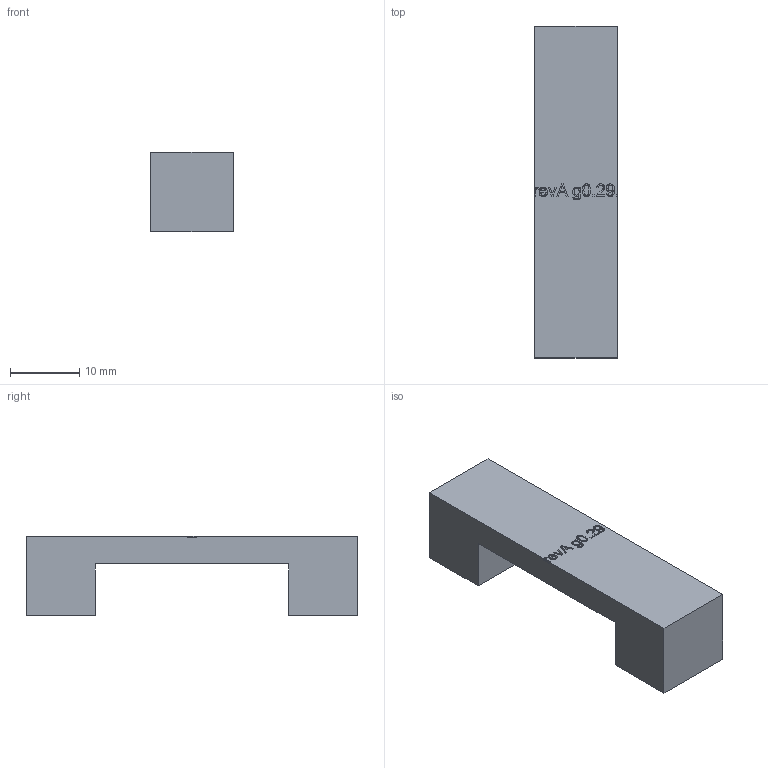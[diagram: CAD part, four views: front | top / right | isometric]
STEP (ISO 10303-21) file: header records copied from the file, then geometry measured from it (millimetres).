
FILE_DESCRIPTION(('Open CASCADE Model'),'2;1');
FILE_NAME('Open CASCADE Shape Model','2026-07-25T17:42:39',('Author'),( 'Open CASCADE'),'Open CASCADE STEP processor 7.9','build123d', 'Unknown');
FILE_SCHEMA(('AUTOMOTIVE_DESIGN { 1 0 10303 214 1 1 1 1 }'));
Length unit declared in the file: millimetre
Products named in the file (1): COMPOUND
Bounding box: 12 x 48 x 11.5 mm (x, y, z)
Volume: 4006.2 mm3; surface area: 2417.4 mm2
Topology: 1 solids, 1 shells, 191 faces, 522 edges, 348 vertices
Faces by surface type: extrusion 120, plane 69, cylinder 2
Full cylindrical faces by diameter (mm): 3.5 x2
Entity records: 14705 total; most frequent: CARTESIAN_POINT 5487, DIRECTION 1138, ORIENTED_EDGE 1044, PCURVE 1044, DEFINITIONAL_REPRESENTATION 1044, VECTOR 982, LINE 862, B_SPLINE_CURVE_WITH_KNOTS 816
